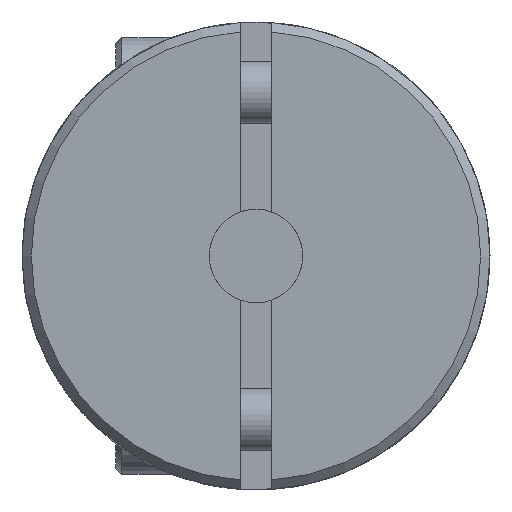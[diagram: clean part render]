
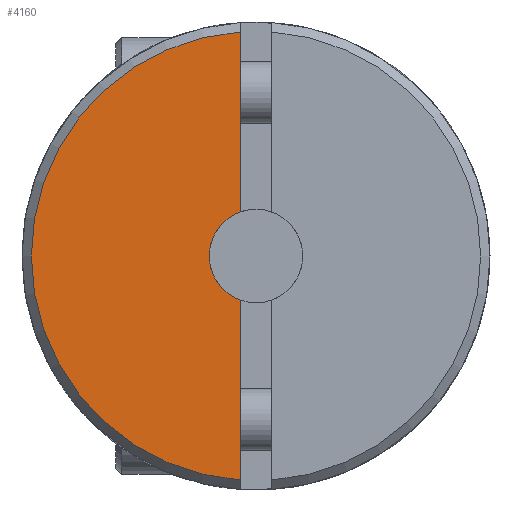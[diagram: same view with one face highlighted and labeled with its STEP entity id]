
A CAD part, left-side view. The second image highlights one B-rep face of the part: STEP entity #4160.
In plain terms, the highlighted planar face has unit normal (-1, 0, 0).
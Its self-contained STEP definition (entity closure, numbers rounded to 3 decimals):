
#382=CIRCLE('',#4474,3.);
#396=CIRCLE('',#4496,14.4);
#714=FACE_OUTER_BOUND('',#992,.T.);
#992=EDGE_LOOP('',(#2885,#2886,#2887,#2888));
#1361=LINE('',#6473,#1567);
#1378=LINE('',#6663,#1584);
#1567=VECTOR('',#5057,1000.);
#1584=VECTOR('',#5174,1000.);
#1773=VERTEX_POINT('',#6470);
#1774=VERTEX_POINT('',#6472);
#1799=VERTEX_POINT('',#6609);
#1811=VERTEX_POINT('',#6654);
#2173=EDGE_CURVE('',#1774,#1773,#1361,.T.);
#2205=EDGE_CURVE('',#1773,#1799,#382,.T.);
#2226=EDGE_CURVE('',#1774,#1811,#396,.T.);
#2229=EDGE_CURVE('',#1799,#1811,#1378,.T.);
#2885=ORIENTED_EDGE('',*,*,#2205,.T.);
#2886=ORIENTED_EDGE('',*,*,#2229,.T.);
#2887=ORIENTED_EDGE('',*,*,#2226,.F.);
#2888=ORIENTED_EDGE('',*,*,#2173,.T.);
#4055=PLANE('',#4498);
#4160=ADVANCED_FACE('',(#714),#4055,.F.);
#4474=AXIS2_PLACEMENT_3D('',#6611,#5118,#5119);
#4496=AXIS2_PLACEMENT_3D('',#6655,#5168,#5169);
#4498=AXIS2_PLACEMENT_3D('',#6662,#5172,#5173);
#5057=DIRECTION('',(0.,0.,1.));
#5118=DIRECTION('center_axis',(1.,0.,0.));
#5119=DIRECTION('ref_axis',(0.,0.,-1.));
#5168=DIRECTION('center_axis',(1.,0.,0.));
#5169=DIRECTION('ref_axis',(0.,0.,-1.));
#5172=DIRECTION('center_axis',(1.,0.,0.));
#5173=DIRECTION('ref_axis',(0.,0.,-1.));
#5174=DIRECTION('',(0.,0.,1.));
#6470=CARTESIAN_POINT('',(-59.1,1.,-2.828));
#6472=CARTESIAN_POINT('',(-59.1,1.,-14.365));
#6473=CARTESIAN_POINT('',(-59.1,1.,-14.967));
#6609=CARTESIAN_POINT('',(-59.1,1.,2.828));
#6611=CARTESIAN_POINT('Origin',(-59.1,0.,0.));
#6654=CARTESIAN_POINT('',(-59.1,1.,14.365));
#6655=CARTESIAN_POINT('Origin',(-59.1,0.,0.));
#6662=CARTESIAN_POINT('Origin',(-59.1,0.,0.));
#6663=CARTESIAN_POINT('',(-59.1,1.,-14.967));
